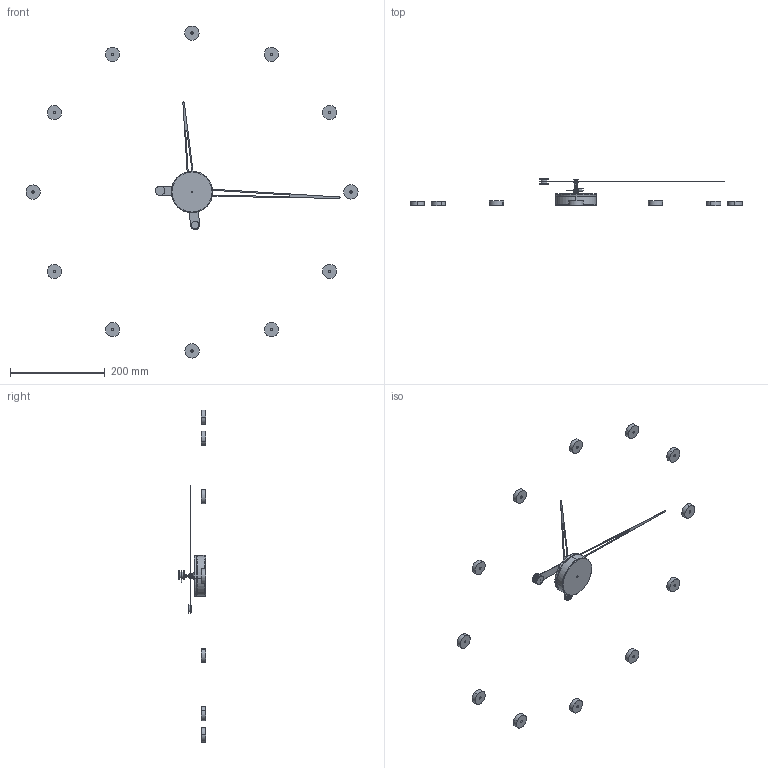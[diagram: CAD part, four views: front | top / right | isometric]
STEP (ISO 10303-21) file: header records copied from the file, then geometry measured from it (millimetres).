
FILE_DESCRIPTION (( 'STEP AP214' ), '1' );
FILE_NAME ('Rodón_i.STEP', '2016-09-15T08:20:07', ( '' ), ( '' ), 'SwSTEP 2.0', 'SolidWorks 2013', '' );
FILE_SCHEMA (( 'AUTOMOTIVE_DESIGN' ));
Length unit declared in the file: millimetre
Products named in the file (22): Rodón_i; Esparrago; Caja_acero_inox; aguja_minutera_calada_inox; Pieza_caja_superior; Cierre_contrapeso; arandela_2; Embellecedor; Pieza_caja_inferior; Axioma_i; Contrapeso_mediano; Contrapeso_pequeño; aguja_horaria_calada_inox; Aguja_horaria_calada_inox; Aguja_minutera_calada_inox; Mecanismo; Tuerca; pasante; Señal_horaria_rodón; arandela; Tuerca 1.5; Pieza2
Assembly tree (34 placements, depth 4):
  Rodón_i
    Axioma_i
      Caja_acero_inox
        Pieza_caja_inferior
        Pieza_caja_superior
        Mecanismo
        Pieza2
      Aguja_minutera_calada_inox
        aguja_minutera_calada_inox
        Contrapeso_mediano  x2
        arandela_2
        Tuerca 1.5
        Embellecedor
        Esparrago
      Aguja_horaria_calada_inox
        aguja_horaria_calada_inox
        Contrapeso_pequeño
        Cierre_contrapeso
        arandela
        Tuerca
        pasante
        arandela_2
    Señal_horaria_rodón  x12
Bounding box: 700 x 57.3 x 700 mm (x, y, z)
Volume: 142499.3 mm3; surface area: 103256.2 mm2
Topology: 30 solids, 30 shells, 309 faces, 614 edges, 394 vertices
Faces by surface type: cylinder 158, plane 113, torus 26, cone 12
Entity records: 6866 total; most frequent: DIRECTION 1230, CARTESIAN_POINT 995, ORIENTED_EDGE 904, AXIS2_PLACEMENT_3D 521, EDGE_CURVE 452, VERTEX_POINT 286, CIRCLE 264, EDGE_LOOP 260
